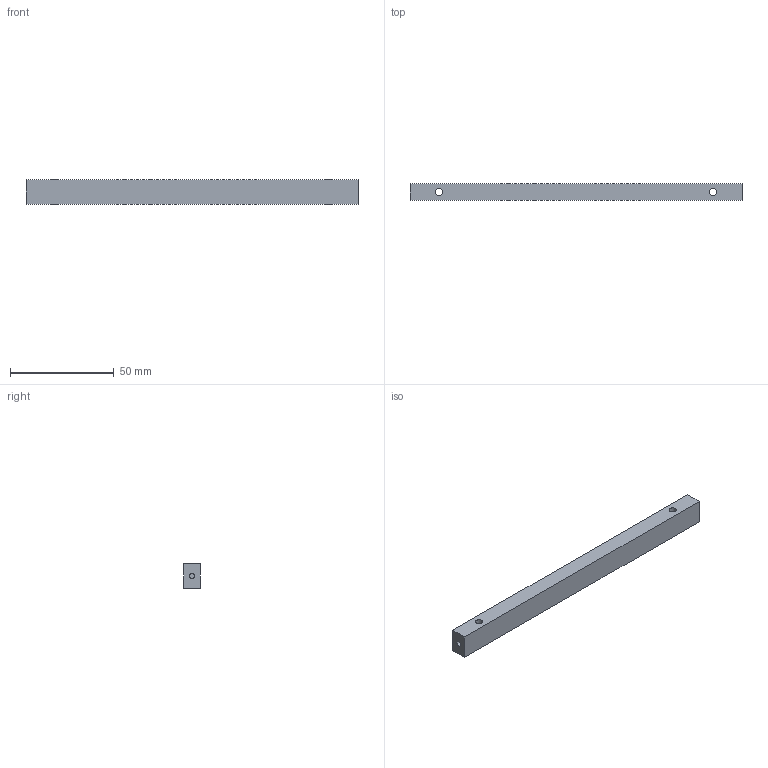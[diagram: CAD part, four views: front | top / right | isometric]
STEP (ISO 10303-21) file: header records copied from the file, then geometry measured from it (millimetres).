
FILE_DESCRIPTION(('Open CASCADE Model'),'2;1');
FILE_NAME('Open CASCADE Shape Model','2026-09-20T05:39:32',('Author'),( 'Open CASCADE'),'Open CASCADE STEP processor 7.9','Open CASCADE 7.9' ,'Unknown');
FILE_SCHEMA(('AUTOMOTIVE_DESIGN { 1 0 10303 214 1 1 1 1 }'));
Length unit declared in the file: millimetre
Products named in the file (1): Open CASCADE STEP translator 7.9 1
Bounding box: 160 x 8 x 12 mm (x, y, z)
Volume: 15063.6 mm3; surface area: 6937.7 mm2
Topology: 1 solids, 1 shells, 12 faces, 24 edges, 16 vertices
Faces by surface type: plane 8, cylinder 4
Full cylindrical faces by diameter (mm): 2.5 x2, 3.4 x2
Entity records: 649 total; most frequent: CARTESIAN_POINT 107, DIRECTION 105, LINE 56, VECTOR 56, ORIENTED_EDGE 48, PCURVE 48, DEFINITIONAL_REPRESENTATION 48, EDGE_CURVE 24
